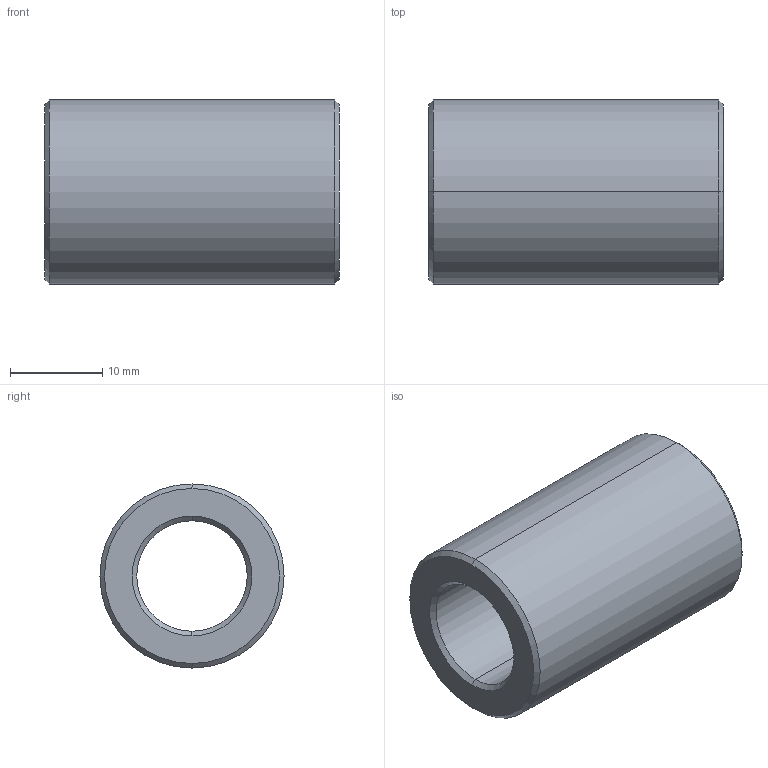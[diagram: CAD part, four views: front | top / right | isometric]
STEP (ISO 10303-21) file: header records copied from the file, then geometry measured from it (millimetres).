
FILE_DESCRIPTION (( 'STEP AP203' ), '1' );
FILE_NAME ('Muffe M12.STEP', '2018-02-22T09:14:19', ( 'install' ), ( 'Hewlett-Packard Company' ), 'SwSTEP 2.0', 'SolidWorks 2017', '' );
FILE_SCHEMA (( 'CONFIG_CONTROL_DESIGN' ));
Length unit declared in the file: millimetre
Products named in the file (1): Muffe M12
Bounding box: 32 x 20 x 20 mm (x, y, z)
Volume: 6408.8 mm3; surface area: 3560.2 mm2
Topology: 1 solids, 1 shells, 14 faces, 28 edges, 16 vertices
Faces by surface type: cone 8, cylinder 4, plane 2
Entity records: 445 total; most frequent: DIRECTION 74, CARTESIAN_POINT 59, ORIENTED_EDGE 56, AXIS2_PLACEMENT_3D 31, EDGE_CURVE 28, VERTEX_POINT 16, EDGE_LOOP 16, CIRCLE 16
